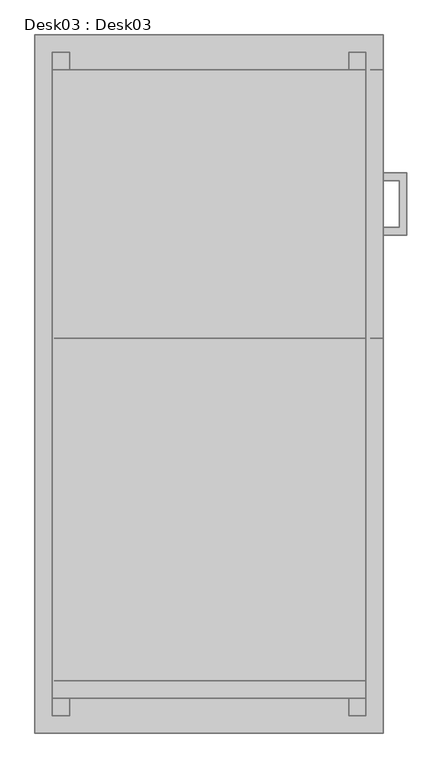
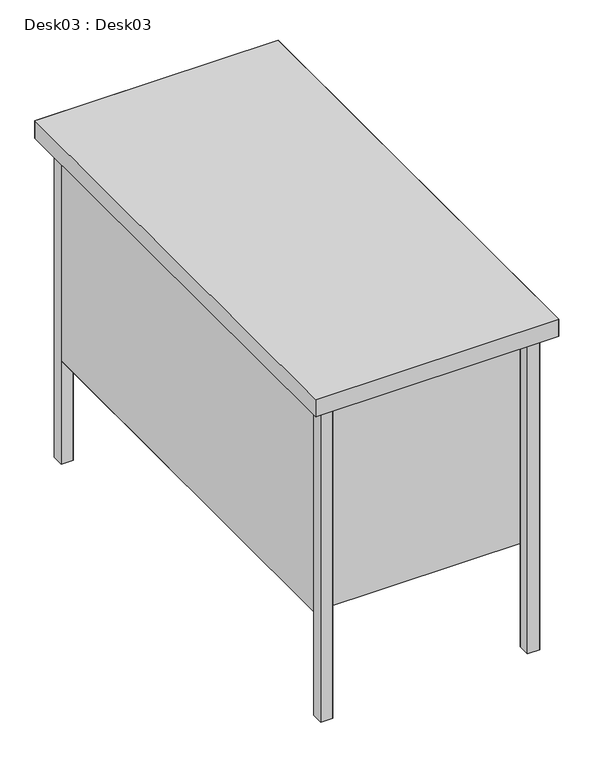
"""IFC4 building model written with IfcOpenShell, lengths in millimetres: furniture geometry, Desk03 : Desk03."""

from ifc_helpers import new_model, si_unit, origin, place, context, project, spatial, triangles, source, transform, mapped, element, save


def desk03_desk03_b31ff7f8(model_context):
    return source(origin(), model_context, "Body", "Tessellation", [
        triangles([(508.0101617, 735.8786293, 621.2738514), (508.0101617, 724.5096285, 632.6733736), (508.0101617, 724.5096285, 621.2738514), (508.0101617, 735.8786293, 632.6733736), (542.1477582, 724.5096285, 632.6733736), (530.7786847, 804.1843437, 621.2738514), (530.7786847, 735.8786293, 632.6733736), (530.7786847, 735.8786293, 621.2738514), (542.1477582, 815.5838659, 621.2738514), (542.1477582, 724.5096285, 621.2738514), (530.7786847, 804.1843437, 632.6733736), (508.0101617, 804.1843437, 621.2738514), (508.0101617, 815.5838659, 621.2738514), (508.0101617, 815.5838659, 632.6733736), (542.1477582, 815.5838659, 632.6733736), (508.0101617, 804.1843437, 632.6733736), (530.7786847, 735.8786293, 486.674182), (508.0101617, 735.8786293, 486.674182), (542.1477582, 724.5096285, 486.674182), (508.0101617, 724.5096285, 486.674182), (542.1477582, 724.5096285, 498.0431828), (508.0101617, 735.8786293, 498.0431828), (508.0101617, 724.5096285, 498.0431828), (530.7786847, 735.8786293, 498.0431828), (508.0101617, 804.1843437, 486.674182), (530.7786847, 804.1843437, 486.674182), (508.0101617, 815.5838659, 498.0431828), (542.1477582, 815.5838659, 486.674182), (508.0101617, 815.5838659, 486.674182), (530.7786847, 804.1843437, 498.0431828), (542.1477582, 815.5838659, 498.0431828), (508.0101617, 804.1843437, 498.0431828), (508.0101617, 724.5096285, 352.0439913), (508.0101617, 735.8786293, 352.0439913), (542.1477582, 724.5096285, 352.0439913), (508.0101617, 724.5096285, 363.4130284), (542.1477582, 724.5096285, 363.4130284), (508.0101617, 735.8786293, 363.4130284), (530.7786847, 735.8786293, 363.4130284), (530.7786847, 804.1843437, 352.0439913), (530.7786847, 735.8786293, 352.0439913), (542.1477582, 815.5838659, 352.0439913), (508.0101617, 804.1843437, 352.0439913), (508.0101617, 815.5838659, 352.0439913), (542.1477582, 815.5838659, 363.4130284), (508.0101617, 815.5838659, 363.4130284), (530.7786847, 804.1843437, 363.4130284), (508.0101617, 804.1843437, 363.4130284)], [[1, 4, 8], [7, 8, 4], [3, 1, 10], [8, 10, 1], [2, 3, 5], [10, 5, 3], [4, 2, 7], [5, 7, 2], [8, 7, 6], [11, 6, 7], [10, 8, 9], [6, 9, 8], [5, 10, 15], [9, 15, 10], [7, 5, 11], [15, 11, 5], [6, 11, 12], [16, 12, 11], [9, 6, 13], [12, 13, 6], [15, 9, 14], [13, 14, 9], [11, 15, 16], [14, 16, 15], [18, 22, 17], [24, 17, 22], [20, 18, 19], [17, 19, 18], [23, 20, 21], [19, 21, 20], [22, 23, 24], [21, 24, 23], [17, 24, 26], [30, 26, 24], [19, 17, 28], [26, 28, 17], [21, 19, 31], [28, 31, 19], [24, 21, 30], [31, 30, 21], [26, 30, 25], [32, 25, 30], [28, 26, 29], [25, 29, 26], [31, 28, 27], [29, 27, 28], [30, 31, 32], [27, 32, 31], [34, 38, 41], [39, 41, 38], [33, 34, 35], [41, 35, 34], [36, 33, 37], [35, 37, 33], [38, 36, 39], [37, 39, 36], [41, 39, 40], [47, 40, 39], [35, 41, 42], [40, 42, 41], [37, 35, 45], [42, 45, 35], [39, 37, 47], [45, 47, 37], [40, 47, 43], [48, 43, 47], [42, 40, 44], [43, 44, 40], [45, 42, 46], [44, 46, 42], [47, 45, 48], [46, 48, 45]], closed=False),
        triangles([(482.5898383, 574.7918412, 660.5016169), (482.5898383, 50.6882396, 660.5016169), (482.5898383, 50.6882396, 698.6016169), (482.5898383, 574.7613925, 698.6016169)], [[3, 2, 1], [1, 4, 3]], closed=False),
        triangles([(457.2914188, 50.6882396, 0.0), (457.2914188, 50.6882396, 698.6016169), (457.2914188, 25.3898406, 698.6016169), (457.2914188, 25.3898406, 0.0), (482.5898383, 25.3898406, 698.6016169), (482.5898383, 50.6882396, 698.6016169), (482.5898383, 50.6882396, 0.0), (482.5898383, 25.3898406, 0.0), (25.3898406, 50.6882396, 0.0), (25.3898406, 50.6882396, 698.6016169), (25.3898406, 25.3898406, 698.6016169), (25.3898406, 25.3898406, 0.0), (50.6882396, 25.3898406, 0.0), (50.6882396, 25.3898406, 698.6016169), (50.6882396, 50.6882396, 698.6016169), (50.6882396, 50.6882396, 0.0), (25.3898406, 990.6, 698.6016169), (25.3898406, 965.3016169, 698.6016169), (25.3898406, 965.3016169, 0.0), (25.3898406, 990.6, 0.0), (50.6882396, 965.3016169, 698.6016169), (50.6882396, 990.6, 698.6016169), (50.6882396, 990.6, 0.0), (50.6882396, 965.3016169, 0.0), (482.5898383, 965.3016169, 0.0), (482.5898383, 965.3016169, 698.6016169), (482.5898383, 990.6, 698.6016169), (482.5898383, 990.6, 0.0), (457.2914188, 990.6, 0.0), (457.2914188, 990.6, 698.6016169), (457.2914188, 965.3016169, 698.6016169), (457.2914188, 965.3016169, 0.0)], [[2, 3, 1], [4, 1, 3], [6, 5, 8], [8, 7, 6], [10, 11, 9], [12, 9, 11], [15, 14, 13], [13, 16, 15], [17, 18, 20], [19, 20, 18], [22, 21, 24], [24, 23, 22], [27, 26, 25], [25, 28, 27], [30, 31, 29], [32, 29, 31]], closed=False),
        triangles([(482.5898383, 50.6882396, 698.6016169), (457.2914188, 50.6882396, 698.6016169), (457.2914188, 50.6882396, 0.0), (482.5898383, 50.6882396, 0.0), (457.2914188, 25.3898406, 698.6016169), (482.5898383, 25.3898406, 698.6016169), (482.5898383, 25.3898406, 0.0), (457.2914188, 25.3898406, 0.0), (50.6882396, 50.6882396, 698.6016169), (25.3898406, 50.6882396, 698.6016169), (25.3898406, 50.6882396, 0.0), (50.6882396, 50.6882396, 0.0), (25.3898406, 25.3898406, 698.6016169), (50.6882396, 25.3898406, 698.6016169), (50.6882396, 25.3898406, 0.0), (25.3898406, 25.3898406, 0.0), (50.6882396, 990.6, 0.0), (50.6882396, 990.6, 698.6016169), (25.3898406, 990.6, 698.6016169), (25.3898406, 990.6, 0.0), (25.3898406, 965.3016169, 698.6016169), (50.6882396, 965.3016169, 698.6016169), (50.6882396, 965.3016169, 0.0), (25.3898406, 965.3016169, 0.0), (457.2914188, 965.3016169, 0.0), (457.2914188, 965.3016169, 698.6016169), (482.5898383, 965.3016169, 698.6016169), (482.5898383, 965.3016169, 0.0), (482.5898383, 990.6, 698.6016169), (457.2914188, 990.6, 698.6016169), (457.2914188, 990.6, 0.0), (482.5898383, 990.6, 0.0)], [[2, 1, 4], [4, 3, 2], [5, 6, 8], [7, 8, 6], [10, 9, 12], [12, 11, 10], [13, 14, 16], [15, 16, 14], [19, 18, 17], [17, 20, 19], [21, 22, 24], [23, 24, 22], [26, 27, 25], [28, 25, 27], [30, 29, 32], [32, 31, 30]], closed=False),
        triangles([(508.0101617, 574.7613925, 556.3514697), (488.9601617, 574.7613925, 556.3514697), (488.9601617, 965.3016169, 556.3514697), (508.0101617, 965.3016169, 556.3514697), (488.9601617, 965.3016169, 563.9714261), (488.9601617, 574.7918412, 563.9714261), (508.0101617, 574.7613925, 563.9714261), (508.0101617, 965.3016169, 563.9714261), (508.0101617, 574.7613925, 690.9815878), (488.9601617, 574.7613925, 690.9815878), (488.9601617, 965.3016169, 690.9815878), (508.0101617, 965.3016169, 690.9815878), (488.9601617, 965.3016169, 228.691437), (488.9601617, 574.7613925, 228.691437), (508.0101617, 574.7613925, 228.691437), (508.0101617, 965.3016169, 228.691437), (488.9601617, 574.7613925, 421.751764), (488.9601617, 965.3016169, 421.751764), (508.0101617, 965.3016169, 421.751764), (508.0101617, 574.7613925, 421.751764)], [[3, 2, 1], [1, 4, 3], [5, 6, 8], [7, 8, 6], [11, 10, 9], [9, 12, 11], [13, 14, 16], [15, 16, 14], [18, 17, 20], [20, 19, 18]], closed=False),
        triangles([(508.0101617, 574.7613925, 429.3412717), (508.0101617, 965.3016169, 429.3412717), (508.0101617, 965.3016169, 556.3514697), (508.0101617, 574.7613925, 556.3514697), (508.0101617, 574.7613925, 563.9714261), (508.0101617, 965.3016169, 563.9714261), (508.0101617, 965.3016169, 690.9815878), (508.0101617, 574.7613925, 690.9815878), (508.0101617, 574.7613925, 421.751764), (508.0101617, 574.7613925, 228.691437), (508.0101617, 965.3016169, 228.691437), (508.0101617, 965.3016169, 421.751764)], [[1, 2, 4], [3, 4, 2], [5, 6, 8], [7, 8, 6], [10, 11, 9], [12, 9, 11]], closed=False),
        triangles([(508.0101617, 965.3016169, 556.3514697), (488.9601617, 965.3016169, 556.3514697), (488.9601617, 965.3016169, 429.3412717), (508.0101617, 965.3016169, 429.3412717), (488.9601617, 574.7918412, 429.3412717), (488.9601617, 574.7613925, 556.3514697), (508.0101617, 574.7613925, 556.3514697), (508.0101617, 574.7613925, 429.3412717), (508.0101617, 965.3016169, 690.9815878), (488.9601617, 965.3016169, 690.9815878), (488.9601617, 965.3016169, 563.9714261), (508.0101617, 965.3016169, 563.9714261), (488.9601617, 574.7918412, 563.9714261), (488.9601617, 574.7613925, 690.9815878), (508.0101617, 574.7613925, 563.9714261), (508.0101617, 574.7613925, 690.9815878), (488.9601617, 965.3016169, 421.751764), (488.9601617, 965.3016169, 228.691437), (508.0101617, 965.3016169, 228.691437), (508.0101617, 965.3016169, 421.751764), (488.9601617, 574.7613925, 228.691437), (488.9601617, 574.7613925, 421.751764), (508.0101617, 574.7613925, 421.751764), (508.0101617, 574.7613925, 228.691437)], [[3, 2, 1], [1, 4, 3], [6, 8, 5], [7, 8, 6], [11, 10, 9], [9, 12, 11], [14, 15, 13], [16, 15, 14], [18, 17, 20], [20, 19, 18], [21, 22, 24], [23, 24, 22]], closed=False),
        triangles([(482.5898383, 965.3016169, 228.691437), (482.5898383, 574.7918412, 228.691437), (25.3898406, 574.7918412, 228.691437), (25.3898406, 965.3016169, 228.691437), (482.5898383, 574.7613925, 698.6016169), (482.5898383, 50.6882396, 698.6016169), (25.3898406, 50.6882396, 698.6016169), (25.3898406, 574.7918412, 698.6016169)], [[3, 2, 1], [1, 4, 3], [7, 6, 5], [5, 8, 7]], closed=False),
        triangles([(25.3898406, 965.3016169, 698.6016169), (25.3898406, 965.3016169, 228.691437), (25.3898406, 50.6882396, 228.691437), (25.3898406, 50.6882396, 698.6016169), (482.5898383, 965.3016169, 698.6016169), (482.5898383, 574.7918412, 698.6016169), (482.5898383, 574.7918412, 228.691437), (482.5898383, 965.3016169, 228.691437)], [[3, 2, 1], [1, 4, 3], [6, 7, 5], [8, 5, 7]], closed=False),
        triangles([(27.9298382, 574.7918412, 698.6016169), (27.9298382, 574.7918412, 228.691437), (482.5898383, 574.7613925, 228.691437), (482.5898383, 574.7613925, 698.6016169), (482.5898383, 965.3016169, 228.691437), (25.3898406, 965.3016169, 228.691437), (25.3898406, 965.3016169, 698.6016169), (482.5898383, 965.3016169, 698.6016169), (482.5898383, 50.6882396, 698.6016169), (25.3898406, 50.6882396, 698.6016169), (25.3898406, 50.6882396, 228.691437), (482.5898383, 50.6882396, 228.691437), (27.9298382, 75.9866409, 698.6016169), (482.5898383, 75.9866409, 698.6016169), (482.5898383, 75.9866409, 228.691437), (27.9298382, 75.9866409, 228.691437)], [[3, 2, 1], [1, 4, 3], [5, 6, 8], [7, 8, 6], [10, 9, 12], [12, 11, 10], [13, 14, 16], [15, 16, 14]], closed=False),
        triangles([(0.0, 0.0, 736.610198), (508.0101617, 0.0, 736.610198), (508.0101617, 1015.989802, 736.610198), (0.0, 1015.989802, 736.610198)], [[2, 3, 1], [4, 1, 3]], closed=False),
        triangles([(508.0101617, 1015.989802, 736.610198), (508.0101617, 0.0, 736.610198), (508.0101617, 0.0, 698.510198), (508.0101617, 1015.989802, 698.510198), (0.0, 1015.989802, 736.610198), (0.0, 1015.989802, 698.510198), (0.0, 0.0, 698.510198), (0.0, 0.0, 736.610198)], [[2, 3, 1], [4, 1, 3], [6, 5, 8], [8, 7, 6]], closed=False),
        triangles([(0.0, 1015.989802, 736.610198), (508.0101617, 1015.989802, 736.610198), (508.0101617, 1015.989802, 698.510198), (0.0, 1015.989802, 698.510198), (0.0, 0.0, 736.610198), (0.0, 0.0, 698.510198), (508.0101617, 0.0, 698.510198), (508.0101617, 0.0, 736.610198)], [[2, 3, 1], [4, 1, 3], [6, 5, 8], [8, 7, 6]], closed=False),
    ])


if __name__ == "__main__":
    model = new_model("IFC4")
    model_context = context("Model", 3, world=origin())
    ifc_project = project(units=[si_unit("LENGTHUNIT", "METRE", prefix="MILLI")], contexts=[model_context])
    site = spatial("IfcSite", under=ifc_project)
    building = spatial("IfcBuilding", under=site)
    placement = place(None, origin())
    desk03_desk03_shape = desk03_desk03_b31ff7f8(model_context)
    element("IfcFurniture", 1, ObjectType="Desk03 : Desk03", at=placement, inside=building, context=model_context, shape_type="MappedRepresentation", body=[
        mapped(desk03_desk03_shape, transform((0.0, 0.0, 0.0), x_axis=(1.0, 0.0, 0.0), y_axis=(0.0, 1.0, 0.0), z_axis=(0.0, 0.0, 1.0))),
    ])
    save(model, "model.ifc")
